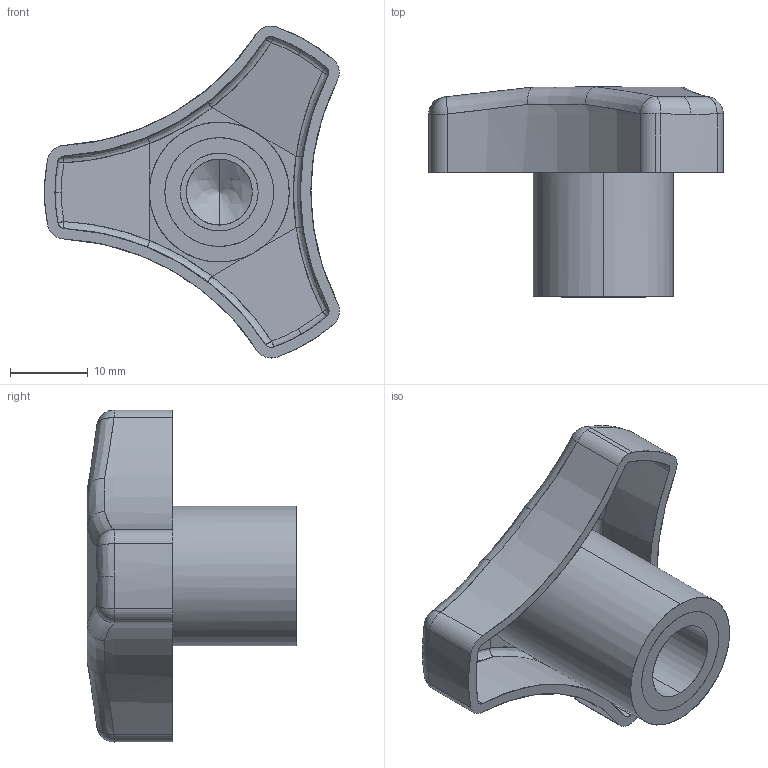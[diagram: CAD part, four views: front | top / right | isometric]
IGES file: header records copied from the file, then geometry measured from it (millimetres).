
Start section: SolidWorks IGES file using analytic representation for surfaces
Global section: file name: C:\Users\IanO\Desktop\Temp File\Process pending\70640_v2\70640_v2_20171022_IGES\70640.W0150.igs; native system: SolidWorks 2017; preprocessor: SolidWorks 2017; author: IanO; date: 171102.143400; units: millimetre
Bounding box: 37.98 x 27 x 42.73 mm (x, y, z)
Surface area: 8555.3 mm2 (no closed solid volume)
Topology: 0 solids, 0 shells, 101 faces, 1149 edges, 1146 vertices
Faces by surface type: revolution 56, bspline 45
